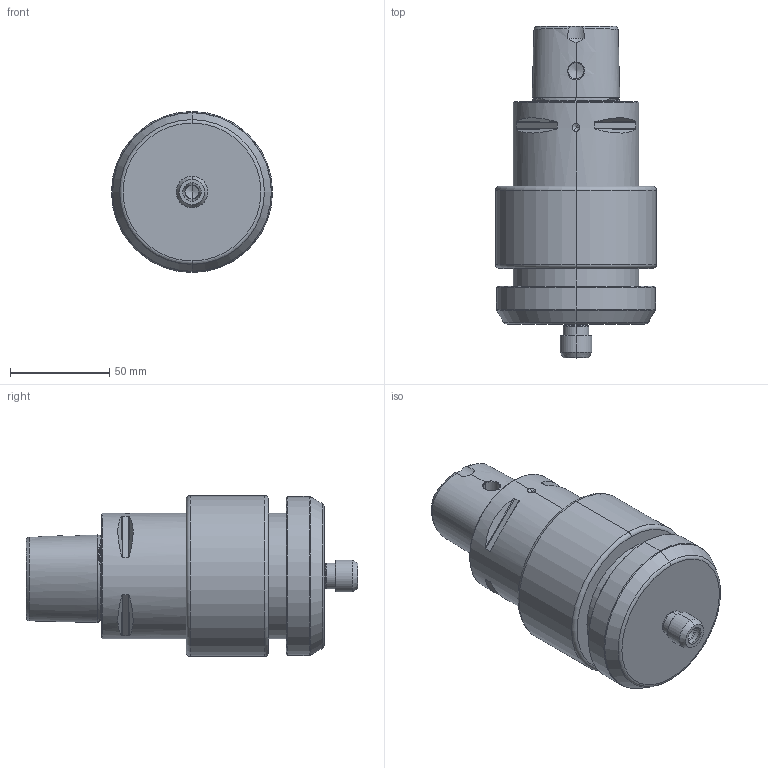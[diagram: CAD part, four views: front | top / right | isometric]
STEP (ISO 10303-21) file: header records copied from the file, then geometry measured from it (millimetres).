
FILE_DESCRIPTION (( 'STEP AP214' ), '1' );
FILE_NAME ('TJS-HPC - C6 -Light.STEP', '2024-08-08T12:28:23', ( '' ), ( '' ), 'SwSTEP 2.0', 'SolidWorks 2024', '' );
FILE_SCHEMA (( 'AUTOMOTIVE_DESIGN' ));
Length unit declared in the file: millimetre
Products named in the file (1): TJS-HPC - C6 -Light
Bounding box: 81 x 166.9 x 81 mm (x, y, z)
Volume: 489107.9 mm3; surface area: 50577.7 mm2
Topology: 1 solids, 1 shells, 152 faces, 352 edges, 206 vertices
Faces by surface type: cone 47, cylinder 43, plane 26, torus 22, bspline 14
Entity records: 9710 total; most frequent: CARTESIAN_POINT 6395, ORIENTED_EDGE 686, DIRECTION 683, EDGE_CURVE 343, AXIS2_PLACEMENT_3D 286, VERTEX_POINT 206, EDGE_LOOP 167, FACE_OUTER_BOUND 152
